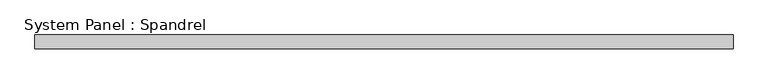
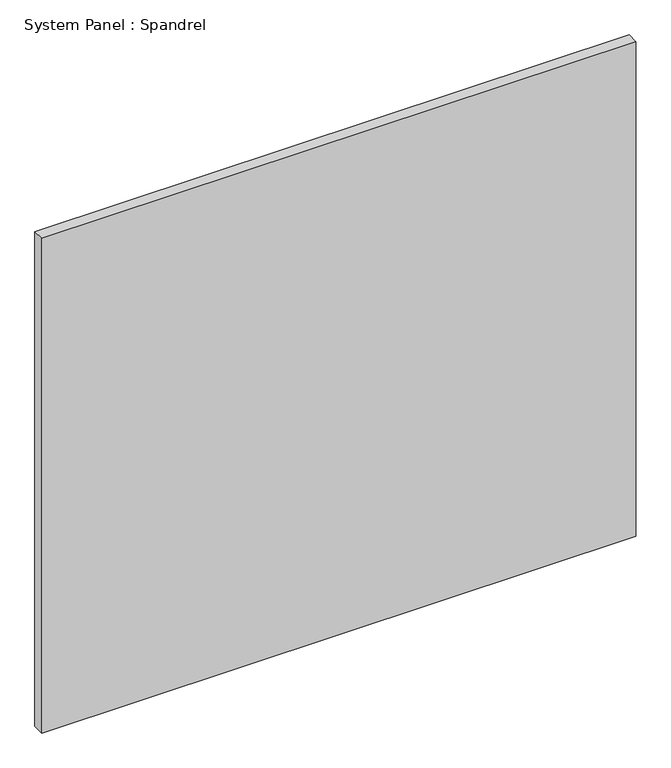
"""IFC4 building model written with IfcOpenShell, lengths in millimetres: plate geometry, System Panel : Spandrel."""

from ifc_helpers import new_model, si_unit, origin, origin_with_axes, place, context, project, spatial, polyline, outline, extrude, source, transform, mapped, element, save


def system_panel_spandrel_74fc2739(model_context):
    return source(origin(), model_context, "Body", "SweptSolid", [
        extrude(outline(polyline([(624.9999998, 0.0), (-624.9999998, 0.0), (-624.9999998, 25.0), (624.9999998, 25.0), (624.9999998, 0.0)])), origin_with_axes(), (0.0, 0.0, 1.0), 1100.0),
    ])


if __name__ == "__main__":
    model = new_model("IFC4")
    model_context = context("Model", 3, world=origin())
    ifc_project = project(units=[si_unit("LENGTHUNIT", "METRE", prefix="MILLI")], contexts=[model_context])
    site = spatial("IfcSite", under=ifc_project)
    building = spatial("IfcBuilding", under=site)
    placement = place(None, origin())
    system_panel_spandrel_shape = system_panel_spandrel_74fc2739(model_context)
    element("IfcPlate", 1, ObjectType="System Panel : Spandrel", at=placement, inside=building, context=model_context, shape_type="MappedRepresentation", body=[
        mapped(system_panel_spandrel_shape, transform((0.0, 0.0, 0.0), x_axis=(1.0, 0.0, 0.0), y_axis=(0.0, 1.0, 0.0), z_axis=(0.0, 0.0, 1.0))),
    ])
    save(model, "model.ifc")
